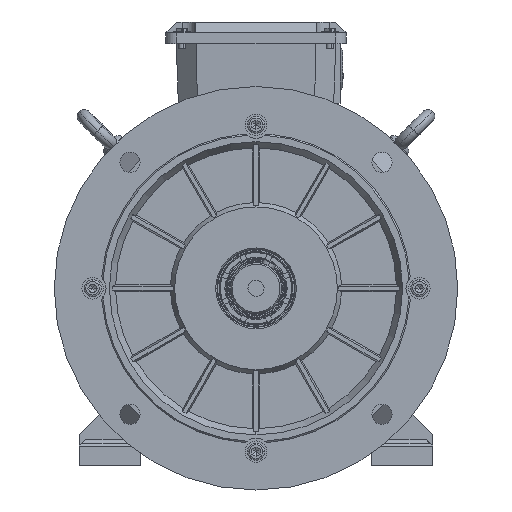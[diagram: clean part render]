
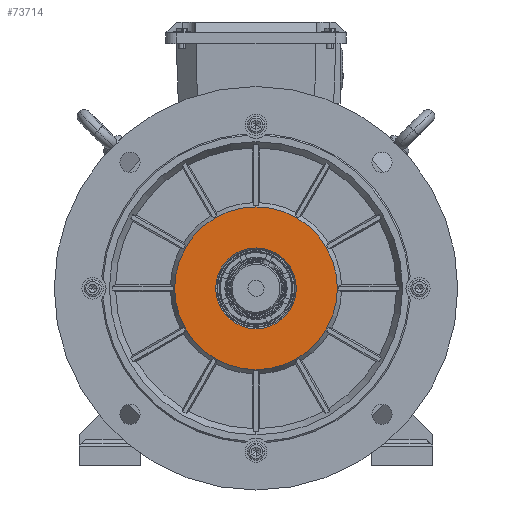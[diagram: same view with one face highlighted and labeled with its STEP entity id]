
A CAD part, left-side view. The second image highlights one B-rep face of the part: STEP entity #73714.
In plain terms, the highlighted planar face has unit normal (-1, 0, 0).
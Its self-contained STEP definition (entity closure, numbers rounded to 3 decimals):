
#302 = EDGE_CURVE ( 'NONE', #13344, #83817, #53056, .T. ) ;
#11370 = EDGE_CURVE ( 'NONE', #114278, #144198, #78052, .T. ) ;
#13344 = VERTEX_POINT ( 'NONE', #48625 ) ;
#14472 = CIRCLE ( 'NONE', #99884, 60.5 ) ;
#17747 = AXIS2_PLACEMENT_3D ( 'NONE', #74381, #108231, #84622 ) ;
#31274 = ORIENTED_EDGE ( 'NONE', *, *, #83659, .T. ) ;
#32749 = DIRECTION ( 'NONE',  ( 1., 0., 0. ) ) ;
#40101 = CARTESIAN_POINT ( 'NONE',  ( -152.99, -2.924, -1.988 ) ) ;
#41543 = ORIENTED_EDGE ( 'NONE', *, *, #11370, .F. ) ;
#42336 = CARTESIAN_POINT ( 'NONE',  ( -152.99, -2.924, -1.988 ) ) ;
#44551 = FACE_BOUND ( 'NONE', #149823, .T. ) ;
#48625 = CARTESIAN_POINT ( 'NONE',  ( -152.99, -2.924, -62.488 ) ) ;
#53056 = CIRCLE ( 'NONE', #58097, 60.5 ) ;
#53358 = DIRECTION ( 'NONE',  ( 0., 0., 1. ) ) ;
#54069 = ORIENTED_EDGE ( 'NONE', *, *, #302, .T. ) ;
#56335 = FACE_OUTER_BOUND ( 'NONE', #76776, .T. ) ;
#56676 = CARTESIAN_POINT ( 'NONE',  ( -152.99, -2.924, 58.512 ) ) ;
#58097 = AXIS2_PLACEMENT_3D ( 'NONE', #42336, #62808, #53358 ) ;
#60735 = DIRECTION ( 'NONE',  ( -1., 0., 0. ) ) ;
#62808 = DIRECTION ( 'NONE',  ( -1., 0., 0. ) ) ;
#69304 = CIRCLE ( 'NONE', #79431, 30. ) ;
#72150 = ORIENTED_EDGE ( 'NONE', *, *, #148180, .F. ) ;
#73714 = ADVANCED_FACE ( 'NONE', ( #56335, #44551 ), #92504, .F. ) ;
#74381 = CARTESIAN_POINT ( 'NONE',  ( -152.99, -2.924, -1.988 ) ) ;
#76776 = EDGE_LOOP ( 'NONE', ( #54069, #31274 ) ) ;
#78052 = CIRCLE ( 'NONE', #17747, 30. ) ;
#79431 = AXIS2_PLACEMENT_3D ( 'NONE', #40101, #88055, #125815 ) ;
#83553 = DIRECTION ( 'NONE',  ( 0., 0., 1. ) ) ;
#83659 = EDGE_CURVE ( 'NONE', #83817, #13344, #14472, .T. ) ;
#83817 = VERTEX_POINT ( 'NONE', #56676 ) ;
#84622 = DIRECTION ( 'NONE',  ( 0., 0., 1. ) ) ;
#88055 = DIRECTION ( 'NONE',  ( -1., 0., 0. ) ) ;
#92504 = PLANE ( 'NONE',  #97866 ) ;
#95353 = CARTESIAN_POINT ( 'NONE',  ( -152.99, -2.924, -1.988 ) ) ;
#97866 = AXIS2_PLACEMENT_3D ( 'NONE', #140453, #32749, #128659 ) ;
#99884 = AXIS2_PLACEMENT_3D ( 'NONE', #95353, #60735, #83553 ) ;
#100464 = CARTESIAN_POINT ( 'NONE',  ( -152.99, -2.924, -31.988 ) ) ;
#108231 = DIRECTION ( 'NONE',  ( -1., 0., 0. ) ) ;
#114278 = VERTEX_POINT ( 'NONE', #118849 ) ;
#118849 = CARTESIAN_POINT ( 'NONE',  ( -152.99, -2.924, 28.012 ) ) ;
#125815 = DIRECTION ( 'NONE',  ( 0., 0., 1. ) ) ;
#128659 = DIRECTION ( 'NONE',  ( 0., 1., 0. ) ) ;
#140453 = CARTESIAN_POINT ( 'NONE',  ( -152.99, 57.576, -1.988 ) ) ;
#144198 = VERTEX_POINT ( 'NONE', #100464 ) ;
#148180 = EDGE_CURVE ( 'NONE', #144198, #114278, #69304, .T. ) ;
#149823 = EDGE_LOOP ( 'NONE', ( #41543, #72150 ) ) ;
